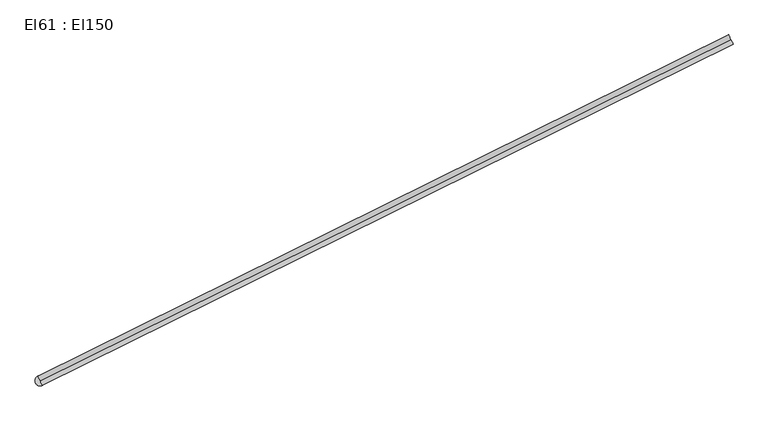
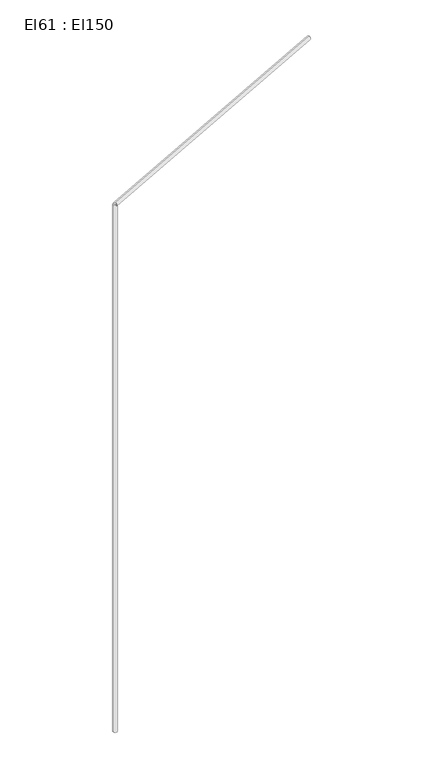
"""IFC4 building model written with IfcOpenShell, lengths in millimetres: cable carrier segment geometry, El61 : El150."""

from ifc_helpers import new_model, si_unit, point, frame, frame_2d, origin, place, context, project, spatial, circle_curve, trimmed, segment, composite_curve, outline, extrude, source, transform, mapped, element, save


def el61_el150_23043934(model_context):
    return source(origin(), model_context, "Body", "SweptSolid", [
        extrude(outline(composite_curve([segment(trimmed(circle_curve(frame_2d((0.0, -9.5)), 9.5), [point((0.0, -19.0))], [point((0.0, 0.0))], False, "CARTESIAN"), True, "CONTINUOUS"), segment(trimmed(circle_curve(frame_2d((0.0, -9.5)), 9.5), [point((0.0, 0.0))], [point((0.0, -19.0))], False, "CARTESIAN"), True, "CONTINUOUS")], self_intersect=False)), frame((19844.5046511, 3139.7711745, 4459.5), z_axis=(0.8963742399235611, 0.44329811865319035, 0.0), x_axis=(-0.44329811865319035, 0.8963742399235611, 0.0)), (0.0, 0.0, 1.0), 1421.31),
        extrude(outline(composite_curve([segment(trimmed(circle_curve(frame_2d((19844.5046511, 3139.7711745)), 9.5), [point((19835.0046511, 3139.7711745))], [point((19854.0046511, 3139.7711745))], False, "CARTESIAN"), True, "CONTINUOUS"), segment(trimmed(circle_curve(frame_2d((19844.5046511, 3139.7711745)), 9.5), [point((19854.0046511, 3139.7711745))], [point((19835.0046511, 3139.7711745))], False, "CARTESIAN"), True, "CONTINUOUS")], self_intersect=False)), frame((0.0, 0.0, 1830.0), z_axis=(0.0, 0.0, 1.0), x_axis=(1.0, 0.0, 0.0)), (0.0, 0.0, 1.0), 2620.0),
    ])


if __name__ == "__main__":
    model = new_model("IFC4")
    model_context = context("Model", 3, world=origin())
    ifc_project = project(units=[si_unit("LENGTHUNIT", "METRE", prefix="MILLI")], contexts=[model_context])
    site = spatial("IfcSite", under=ifc_project)
    building = spatial("IfcBuilding", under=site)
    placement = place(None, origin())
    el61_el150_shape = el61_el150_23043934(model_context)
    element("IfcCableCarrierSegment", 1, ObjectType="El61 : El150", at=placement, inside=building, context=model_context, shape_type="MappedRepresentation", body=[
        mapped(el61_el150_shape, transform((0.0, 0.0, 0.0), x_axis=(1.0, 0.0, 0.0), y_axis=(0.0, 1.0, 0.0), z_axis=(0.0, 0.0, 1.0))),
    ])
    save(model, "model.ifc")
